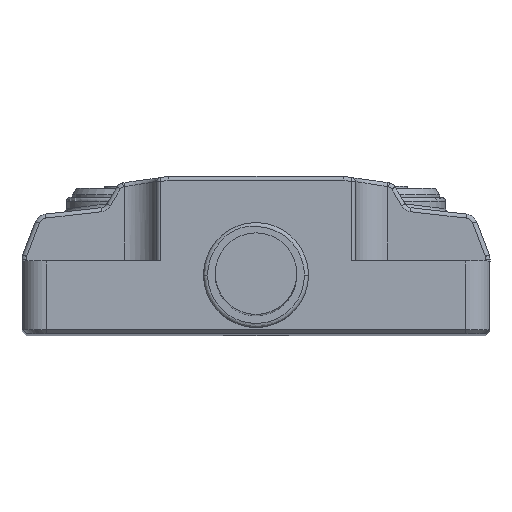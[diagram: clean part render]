
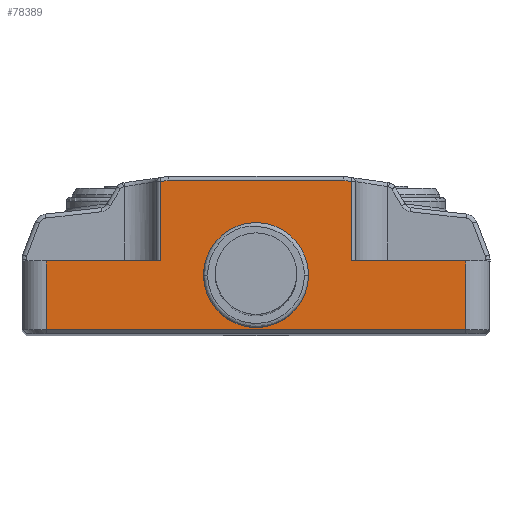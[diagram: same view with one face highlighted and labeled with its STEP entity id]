
A CAD part, top view. The second image highlights one B-rep face of the part: STEP entity #78389.
In plain terms, the highlighted planar face has unit normal (0, 0, 1).
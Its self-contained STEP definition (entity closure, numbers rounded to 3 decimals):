
#7473=DIRECTION('',(-1.,0.,0.));
#7474=VECTOR('',#7473,52.);
#7475=CARTESIAN_POINT('',(26.,0.5,153.));
#7476=LINE('',#7475,#7474);
#7477=DIRECTION('',(-1.,0.,0.));
#7478=VECTOR('',#7477,14.2);
#7479=CARTESIAN_POINT('',(26.,9.,153.));
#7480=LINE('',#7479,#7478);
#7481=DIRECTION('',(-0.99,-0.139,0.));
#7482=VECTOR('',#7481,1.037);
#7483=CARTESIAN_POINT('',(-10.773,19.,153.));
#7484=LINE('',#7483,#7482);
#7485=DIRECTION('',(-0.99,0.139,0.));
#7486=VECTOR('',#7485,1.037);
#7487=CARTESIAN_POINT('',(11.8,18.856,153.));
#7488=LINE('',#7487,#7486);
#7489=CARTESIAN_POINT('',(0.,7.25,153.));
#7490=DIRECTION('',(0.,0.,-1.));
#7491=DIRECTION('',(1.,0.,0.));
#7492=AXIS2_PLACEMENT_3D('',#7489,#7490,#7491);
#7494=CARTESIAN_POINT('',(0.,7.25,153.));
#7495=DIRECTION('',(0.,0.,-1.));
#7496=DIRECTION('',(-1.,0.,0.));
#7497=AXIS2_PLACEMENT_3D('',#7494,#7495,#7496);
#7503=DIRECTION('',(0.,-1.,0.));
#7504=VECTOR('',#7503,9.856);
#7505=CARTESIAN_POINT('',(11.8,18.856,153.));
#7506=LINE('',#7505,#7504);
#7539=DIRECTION('',(1.,0.,0.));
#7540=VECTOR('',#7539,21.545);
#7541=CARTESIAN_POINT('',(-10.773,19.,153.));
#7542=LINE('',#7541,#7540);
#7547=CARTESIAN_POINT('',(-10.773,19.,153.));
#7636=DIRECTION('',(1.,0.,0.));
#7637=VECTOR('',#7636,14.2);
#7638=CARTESIAN_POINT('',(-26.,9.,153.));
#7639=LINE('',#7638,#7637);
#7674=DIRECTION('',(0.,1.,0.));
#7675=VECTOR('',#7674,9.856);
#7676=CARTESIAN_POINT('',(-11.8,9.,153.));
#7677=LINE('',#7676,#7675);
#7686=DIRECTION('',(0.,1.,0.));
#7687=VECTOR('',#7686,8.5);
#7688=CARTESIAN_POINT('',(-26.,0.5,
153.));
#7689=LINE('',#7688,#7687);
#12609=DIRECTION('',(0.,-1.,0.));
#12610=VECTOR('',#12609,8.5);
#12611=CARTESIAN_POINT('',(26.,9.,153.));
#12612=LINE('',#12611,#12610);
#57097=CARTESIAN_POINT('',(11.8,18.856,153.));
#57098=CARTESIAN_POINT('',(10.773,19.,153.));
#57099=VERTEX_POINT('',#57097);
#57100=VERTEX_POINT('',#57098);
#58399=CARTESIAN_POINT('',(-6.5,7.25,
153.));
#58401=VERTEX_POINT('',#58399);
#59129=CARTESIAN_POINT('',(6.5,7.25,153.));
#59130=VERTEX_POINT('',#59129);
#62065=CARTESIAN_POINT('',(-11.8,9.,
153.));
#62066=CARTESIAN_POINT('',(-11.8,18.856,
153.));
#62067=VERTEX_POINT('',#62065);
#62068=VERTEX_POINT('',#62066);
#62457=CARTESIAN_POINT('',(-26.,9.,
153.));
#62459=VERTEX_POINT('',#62457);
#62554=CARTESIAN_POINT('',(11.8,9.,153.));
#62555=VERTEX_POINT('',#62554);
#62908=CARTESIAN_POINT('',(-26.,0.5,153.));
#62910=VERTEX_POINT('',#62908);
#63720=CARTESIAN_POINT('',(26.,9.,153.));
#63722=VERTEX_POINT('',#63720);
#65142=CARTESIAN_POINT('',(26.,0.5,153.));
#65143=VERTEX_POINT('',#65142);
#65810=VERTEX_POINT('',#7547);
#78357=CARTESIAN_POINT('',(-26.,0.5,153.));
#78358=DIRECTION('',(0.,0.,1.));
#78359=DIRECTION('',(1.,0.,0.));
#78360=AXIS2_PLACEMENT_3D('',#78357,#78358,#78359);
#78361=PLANE('',#78360);
#78363=ORIENTED_EDGE('',*,*,#78362,.T.);
#78365=ORIENTED_EDGE('',*,*,#78364,.F.);
#78367=ORIENTED_EDGE('',*,*,#78366,.T.);
#78368=ORIENTED_EDGE('',*,*,#78349,.T.);
#78370=ORIENTED_EDGE('',*,*,#78369,.T.);
#78372=ORIENTED_EDGE('',*,*,#78371,.T.);
#78374=ORIENTED_EDGE('',*,*,#78373,.T.);
#78376=ORIENTED_EDGE('',*,*,#78375,.F.);
#78378=ORIENTED_EDGE('',*,*,#78377,.T.);
#78380=ORIENTED_EDGE('',*,*,#78379,.F.);
#78381=EDGE_LOOP('',(#78363,#78365,#78367,#78368,#78370,#78372,#78374,#78376,
#78378,#78380));
#78382=FACE_OUTER_BOUND('',#78381,.F.);
#78384=ORIENTED_EDGE('',*,*,#78383,.F.);
#78386=ORIENTED_EDGE('',*,*,#78385,.F.);
#78387=EDGE_LOOP('',(#78384,#78386));
#78388=FACE_BOUND('',#78387,.F.);
#78389=ADVANCED_FACE('',(#78382,#78388),#78361,.T.);
#7493=CIRCLE('',#7492,6.5);
#7498=CIRCLE('',#7497,6.5);
#78349=EDGE_CURVE('',#65143,#62910,#7476,.T.);
#78362=EDGE_CURVE('',#57099,#62555,#7506,.T.);
#78364=EDGE_CURVE('',#63722,#62555,#7480,.T.);
#78366=EDGE_CURVE('',#63722,#65143,#12612,.T.);
#78369=EDGE_CURVE('',#62910,#62459,#7689,.T.);
#78371=EDGE_CURVE('',#62459,#62067,#7639,.T.);
#78373=EDGE_CURVE('',#62067,#62068,#7677,.T.);
#78375=EDGE_CURVE('',#65810,#62068,#7484,.T.);
#78377=EDGE_CURVE('',#65810,#57100,#7542,.T.);
#78379=EDGE_CURVE('',#57099,#57100,#7488,.T.);
#78383=EDGE_CURVE('',#59130,#58401,#7493,.T.);
#78385=EDGE_CURVE('',#58401,#59130,#7498,.T.);
